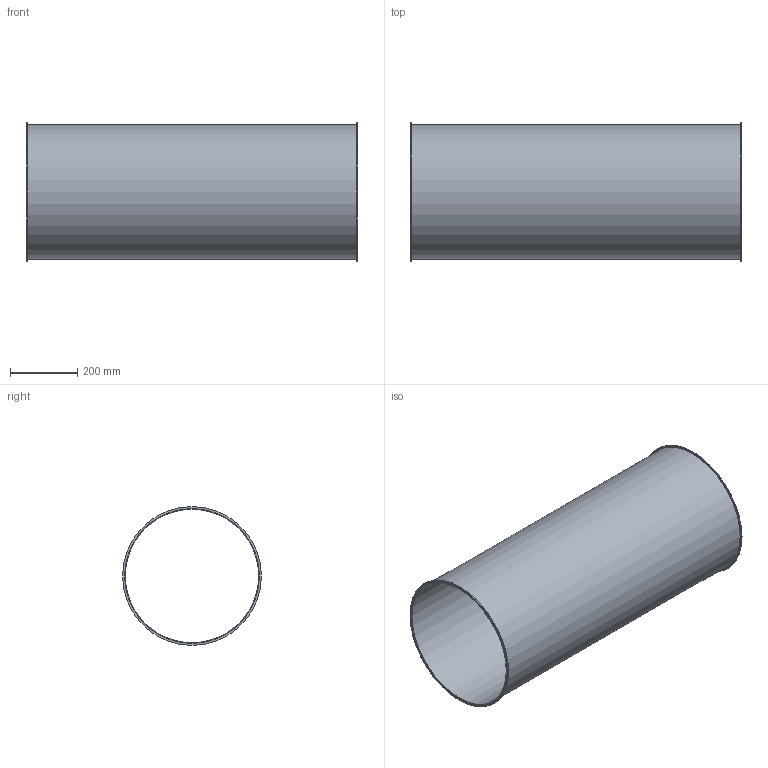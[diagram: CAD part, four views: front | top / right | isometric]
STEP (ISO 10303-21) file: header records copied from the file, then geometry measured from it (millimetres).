
FILE_DESCRIPTION((''),'2;1');
FILE_NAME('U:\Wolfgang\Marcel-3D\fertig\Kapitel 1\4021002.stp','2010-05-31T11:54:54',('TK2'),(''),'Autodesk Inventor 2010','Autodesk Inventor 2010','');
FILE_SCHEMA(('AUTOMOTIVE_DESIGN { 1 0 10303 214 1 1 1 1 }'));
Length unit declared in the file: millimetre
Products named in the file (1): 4021002
Bounding box: 986 x 414 x 414 mm (x, y, z)
Volume: 2508850.8 mm3; surface area: 2514028.1 mm2
Topology: 1 solids, 1 shells, 8 faces, 12 edges, 8 vertices
Faces by surface type: cylinder 4, plane 4
Full cylindrical faces by diameter (mm): 398 x1, 402 x1, 414 x2
Entity records: 194 total; most frequent: DIRECTION 34, CARTESIAN_POINT 25, AXIS2_PLACEMENT_3D 17, ORIENTED_EDGE 16, EDGE_LOOP 16, VERTEX_POINT 8, CIRCLE 8, EDGE_CURVE 8
